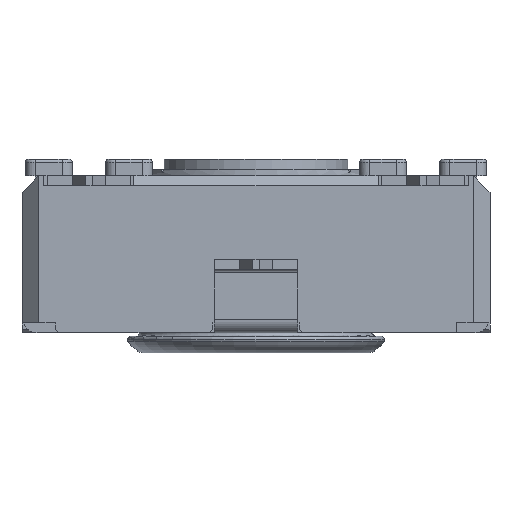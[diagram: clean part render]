
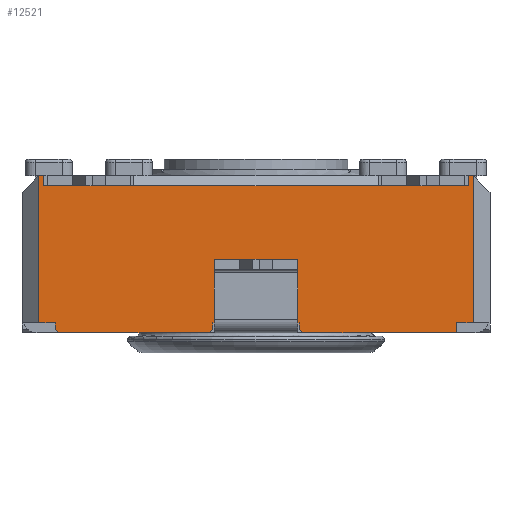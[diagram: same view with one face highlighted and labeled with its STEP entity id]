
A CAD part, front view. The second image highlights one B-rep face of the part: STEP entity #12521.
In plain terms, the highlighted planar face has unit normal (0, -1, 0).
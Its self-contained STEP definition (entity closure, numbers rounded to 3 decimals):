
#652=FACE_OUTER_BOUND('',#1319,.T.);
#1319=EDGE_LOOP('',(#8323,#8324,#8325,#8326,#8327,#8328,#8329,#8330,#8331,
#8332,#8333,#8334,#8335,#8336,#8337,#8338,#8339,#8340,#8341,#8342,#8343,
#8344,#8345,#8346,#8347,#8348,#8349));
#1998=LINE('',#17809,#3479);
#2011=LINE('',#17843,#3492);
#2016=LINE('',#17853,#3497);
#2094=LINE('',#18014,#3575);
#2119=LINE('',#18065,#3600);
#2145=LINE('',#18129,#3626);
#2146=LINE('',#18131,#3627);
#2147=LINE('',#18133,#3628);
#2148=LINE('',#18134,#3629);
#2149=LINE('',#18136,#3630);
#2150=LINE('',#18138,#3631);
#2151=LINE('',#18140,#3632);
#2152=LINE('',#18142,#3633);
#2153=LINE('',#18143,#3634);
#2154=LINE('',#18145,#3635);
#2155=LINE('',#18147,#3636);
#2156=LINE('',#18149,#3637);
#2157=LINE('',#18151,#3638);
#2158=LINE('',#18153,#3639);
#2159=LINE('',#18155,#3640);
#2160=LINE('',#18157,#3641);
#2161=LINE('',#18159,#3642);
#2162=LINE('',#18161,#3643);
#2163=LINE('',#18162,#3644);
#2164=LINE('',#18164,#3645);
#2165=LINE('',#18166,#3646);
#2166=LINE('',#18167,#3647);
#3479=VECTOR('',#14286,10.);
#3492=VECTOR('',#14325,10.);
#3497=VECTOR('',#14330,10.);
#3575=VECTOR('',#14434,10.);
#3600=VECTOR('',#14475,10.);
#3626=VECTOR('',#14523,10.);
#3627=VECTOR('',#14524,10.);
#3628=VECTOR('',#14525,10.);
#3629=VECTOR('',#14526,10.);
#3630=VECTOR('',#14527,10.);
#3631=VECTOR('',#14528,10.);
#3632=VECTOR('',#14529,10.);
#3633=VECTOR('',#14530,10.);
#3634=VECTOR('',#14531,10.);
#3635=VECTOR('',#14532,10.);
#3636=VECTOR('',#14533,10.);
#3637=VECTOR('',#14534,10.);
#3638=VECTOR('',#14535,10.);
#3639=VECTOR('',#14536,10.);
#3640=VECTOR('',#14537,10.);
#3641=VECTOR('',#14538,10.);
#3642=VECTOR('',#14539,10.);
#3643=VECTOR('',#14540,10.);
#3644=VECTOR('',#14541,10.);
#3645=VECTOR('',#14542,10.);
#3646=VECTOR('',#14543,10.);
#3647=VECTOR('',#14544,10.);
#4951=VERTEX_POINT('',#17787);
#4959=VERTEX_POINT('',#17808);
#4967=VERTEX_POINT('',#17842);
#4971=VERTEX_POINT('',#17850);
#4972=VERTEX_POINT('',#17852);
#5041=VERTEX_POINT('',#18011);
#5042=VERTEX_POINT('',#18013);
#5059=VERTEX_POINT('',#18062);
#5060=VERTEX_POINT('',#18064);
#5087=VERTEX_POINT('',#18128);
#5088=VERTEX_POINT('',#18130);
#5089=VERTEX_POINT('',#18132);
#5090=VERTEX_POINT('',#18135);
#5091=VERTEX_POINT('',#18137);
#5092=VERTEX_POINT('',#18139);
#5093=VERTEX_POINT('',#18141);
#5094=VERTEX_POINT('',#18144);
#5095=VERTEX_POINT('',#18146);
#5096=VERTEX_POINT('',#18148);
#5097=VERTEX_POINT('',#18150);
#5098=VERTEX_POINT('',#18152);
#5099=VERTEX_POINT('',#18154);
#5100=VERTEX_POINT('',#18156);
#5101=VERTEX_POINT('',#18158);
#5102=VERTEX_POINT('',#18160);
#5103=VERTEX_POINT('',#18163);
#5104=VERTEX_POINT('',#18165);
#6186=EDGE_CURVE('',#4951,#4959,#1998,.T.);
#6203=EDGE_CURVE('',#4967,#4951,#2011,.T.);
#6208=EDGE_CURVE('',#4972,#4971,#2016,.T.);
#6288=EDGE_CURVE('',#5042,#5041,#2094,.T.);
#6313=EDGE_CURVE('',#5060,#5059,#2119,.T.);
#6345=EDGE_CURVE('',#5041,#5087,#2145,.T.);
#6346=EDGE_CURVE('',#5087,#5088,#2146,.T.);
#6347=EDGE_CURVE('',#5088,#5089,#2147,.T.);
#6348=EDGE_CURVE('',#4972,#5089,#2148,.T.);
#6349=EDGE_CURVE('',#4971,#5090,#2149,.T.);
#6350=EDGE_CURVE('',#5091,#5090,#2150,.T.);
#6351=EDGE_CURVE('',#5091,#5092,#2151,.T.);
#6352=EDGE_CURVE('',#5093,#5092,#2152,.T.);
#6353=EDGE_CURVE('',#4967,#5093,#2153,.T.);
#6354=EDGE_CURVE('',#4959,#5094,#2154,.T.);
#6355=EDGE_CURVE('',#5094,#5095,#2155,.T.);
#6356=EDGE_CURVE('',#5096,#5095,#2156,.T.);
#6357=EDGE_CURVE('',#5096,#5097,#2157,.T.);
#6358=EDGE_CURVE('',#5097,#5098,#2158,.T.);
#6359=EDGE_CURVE('',#5098,#5099,#2159,.T.);
#6360=EDGE_CURVE('',#5100,#5099,#2160,.T.);
#6361=EDGE_CURVE('',#5100,#5101,#2161,.T.);
#6362=EDGE_CURVE('',#5101,#5102,#2162,.T.);
#6363=EDGE_CURVE('',#5102,#5060,#2163,.T.);
#6364=EDGE_CURVE('',#5059,#5103,#2164,.T.);
#6365=EDGE_CURVE('',#5104,#5103,#2165,.T.);
#6366=EDGE_CURVE('',#5104,#5042,#2166,.T.);
#8323=ORIENTED_EDGE('',*,*,#6288,.T.);
#8324=ORIENTED_EDGE('',*,*,#6345,.T.);
#8325=ORIENTED_EDGE('',*,*,#6346,.T.);
#8326=ORIENTED_EDGE('',*,*,#6347,.T.);
#8327=ORIENTED_EDGE('',*,*,#6348,.F.);
#8328=ORIENTED_EDGE('',*,*,#6208,.T.);
#8329=ORIENTED_EDGE('',*,*,#6349,.T.);
#8330=ORIENTED_EDGE('',*,*,#6350,.F.);
#8331=ORIENTED_EDGE('',*,*,#6351,.T.);
#8332=ORIENTED_EDGE('',*,*,#6352,.F.);
#8333=ORIENTED_EDGE('',*,*,#6353,.F.);
#8334=ORIENTED_EDGE('',*,*,#6203,.T.);
#8335=ORIENTED_EDGE('',*,*,#6186,.T.);
#8336=ORIENTED_EDGE('',*,*,#6354,.T.);
#8337=ORIENTED_EDGE('',*,*,#6355,.T.);
#8338=ORIENTED_EDGE('',*,*,#6356,.F.);
#8339=ORIENTED_EDGE('',*,*,#6357,.T.);
#8340=ORIENTED_EDGE('',*,*,#6358,.T.);
#8341=ORIENTED_EDGE('',*,*,#6359,.T.);
#8342=ORIENTED_EDGE('',*,*,#6360,.F.);
#8343=ORIENTED_EDGE('',*,*,#6361,.T.);
#8344=ORIENTED_EDGE('',*,*,#6362,.T.);
#8345=ORIENTED_EDGE('',*,*,#6363,.T.);
#8346=ORIENTED_EDGE('',*,*,#6313,.T.);
#8347=ORIENTED_EDGE('',*,*,#6364,.T.);
#8348=ORIENTED_EDGE('',*,*,#6365,.F.);
#8349=ORIENTED_EDGE('',*,*,#6366,.T.);
#11809=PLANE('',#13234);
#12521=ADVANCED_FACE('',(#652),#11809,.T.);
#13234=AXIS2_PLACEMENT_3D('',#18127,#14521,#14522);
#14286=DIRECTION('',(1.,0.,0.));
#14325=DIRECTION('',(1.,0.,0.));
#14330=DIRECTION('',(1.,0.,0.));
#14434=DIRECTION('',(-1.,0.,0.));
#14475=DIRECTION('',(-1.,0.,0.));
#14521=DIRECTION('center_axis',(0.,-1.,0.));
#14522=DIRECTION('ref_axis',(0.,0.,-1.));
#14523=DIRECTION('',(-1.,0.,0.));
#14524=DIRECTION('',(0.,0.,1.));
#14525=DIRECTION('',(-1.,0.,0.));
#14526=DIRECTION('',(0.,0.,1.));
#14527=DIRECTION('',(0.,0.,-1.));
#14528=DIRECTION('',(-0.707,0.,0.707));
#14529=DIRECTION('',(1.,0.,0.));
#14530=DIRECTION('',(-0.707,0.,-0.707));
#14531=DIRECTION('',(0.,0.,-1.));
#14532=DIRECTION('',(1.,0.,0.));
#14533=DIRECTION('',(0.,0.,-1.));
#14534=DIRECTION('',(-0.707,0.,0.707));
#14535=DIRECTION('',(1.,0.,0.));
#14536=DIRECTION('',(0.,0.,1.));
#14537=DIRECTION('',(1.,0.,0.));
#14538=DIRECTION('',(0.,0.,-1.));
#14539=DIRECTION('',(-1.,0.,0.));
#14540=DIRECTION('',(0.,0.,-1.));
#14541=DIRECTION('',(-1.,0.,0.));
#14542=DIRECTION('',(-1.,0.,0.));
#14543=DIRECTION('',(1.,0.,0.));
#14544=DIRECTION('',(-1.,0.,0.));
#17787=CARTESIAN_POINT('',(-8.717,-9.898,0.));
#17808=CARTESIAN_POINT('',(-6.217,-9.898,0.));
#17809=CARTESIAN_POINT('',(-14.467,-9.898,0.));
#17842=CARTESIAN_POINT('',(-8.767,-9.898,0.));
#17843=CARTESIAN_POINT('',(-14.467,-9.898,0.));
#17850=CARTESIAN_POINT('',(-13.467,-9.898,0.));
#17852=CARTESIAN_POINT('',(-13.967,-9.898,0.));
#17853=CARTESIAN_POINT('',(-7.245,-9.898,0.));
#18011=CARTESIAN_POINT('',(-13.717,-9.898,4.1));
#18013=CARTESIAN_POINT('',(-11.217,-9.898,4.1));
#18014=CARTESIAN_POINT('',(-6.467,-9.898,4.1));
#18062=CARTESIAN_POINT('',(-3.717,-9.898,4.1));
#18064=CARTESIAN_POINT('',(-1.217,-9.898,4.1));
#18065=CARTESIAN_POINT('',(-1.467,-9.898,4.1));
#18127=CARTESIAN_POINT('Origin',(-0.467,-9.898,0.));
#18128=CARTESIAN_POINT('',(-13.817,-9.898,4.1));
#18129=CARTESIAN_POINT('',(-3.944,-9.898,4.1));
#18130=CARTESIAN_POINT('',(-13.817,-9.898,4.4));
#18131=CARTESIAN_POINT('',(-13.817,-9.898,2.2));
#18132=CARTESIAN_POINT('',(-13.967,-9.898,4.4));
#18133=CARTESIAN_POINT('',(-14.467,-9.898,4.4));
#18134=CARTESIAN_POINT('',(-13.967,-9.898,0.));
#18135=CARTESIAN_POINT('',(-13.467,-9.898,-0.2));
#18136=CARTESIAN_POINT('',(-13.467,-9.898,-0.15));
#18137=CARTESIAN_POINT('',(-13.367,-9.898,-0.3));
#18138=CARTESIAN_POINT('',(-10.242,-9.898,-3.425));
#18139=CARTESIAN_POINT('',(-8.867,-9.898,-0.3));
#18140=CARTESIAN_POINT('',(-0.467,-9.898,-0.3));
#18141=CARTESIAN_POINT('',(-8.767,-9.898,-0.2));
#18142=CARTESIAN_POINT('',(-6.667,-9.898,1.9));
#18143=CARTESIAN_POINT('',(-8.767,-9.898,0.));
#18144=CARTESIAN_POINT('',(-6.167,-9.898,0.));
#18145=CARTESIAN_POINT('',(-14.467,-9.898,0.));
#18146=CARTESIAN_POINT('',(-6.167,-9.898,-0.2));
#18147=CARTESIAN_POINT('',(-6.167,-9.898,0.));
#18148=CARTESIAN_POINT('',(-6.067,-9.898,-0.3));
#18149=CARTESIAN_POINT('',(-4.767,-9.898,-1.6));
#18150=CARTESIAN_POINT('',(-1.467,-9.898,-0.3));
#18151=CARTESIAN_POINT('',(-0.467,-9.898,-0.3));
#18152=CARTESIAN_POINT('',(-1.467,-9.898,0.));
#18153=CARTESIAN_POINT('',(-1.467,-9.898,-0.15));
#18154=CARTESIAN_POINT('',(-0.967,-9.898,0.));
#18155=CARTESIAN_POINT('',(-0.646,-9.898,0.));
#18156=CARTESIAN_POINT('',(-0.967,-9.898,4.4));
#18157=CARTESIAN_POINT('',(-0.967,-9.898,0.));
#18158=CARTESIAN_POINT('',(-1.117,-9.898,4.4));
#18159=CARTESIAN_POINT('',(-14.467,-9.898,4.4));
#18160=CARTESIAN_POINT('',(-1.117,-9.898,4.1));
#18161=CARTESIAN_POINT('',(-1.117,-9.898,2.2));
#18162=CARTESIAN_POINT('',(-1.862,-9.898,4.1));
#18163=CARTESIAN_POINT('',(-3.817,-9.898,4.1));
#18164=CARTESIAN_POINT('',(-1.862,-9.898,4.1));
#18165=CARTESIAN_POINT('',(-11.117,-9.898,4.1));
#18166=CARTESIAN_POINT('',(-3.967,-9.898,4.1));
#18167=CARTESIAN_POINT('',(-3.944,-9.898,4.1));
